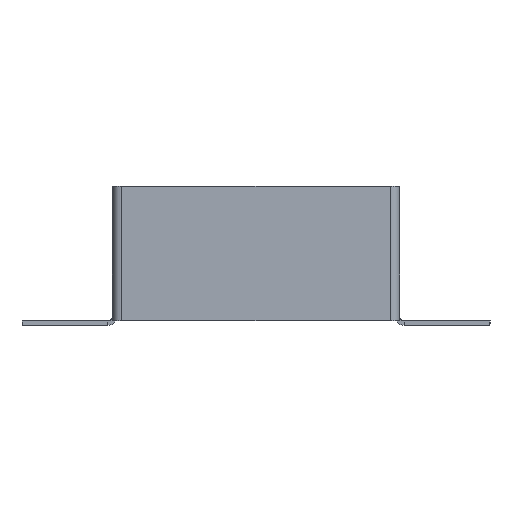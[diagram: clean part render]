
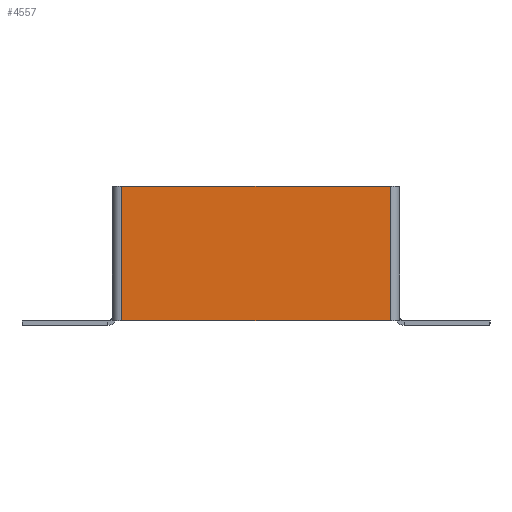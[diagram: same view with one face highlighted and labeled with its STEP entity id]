
A CAD part, front view. The second image highlights one B-rep face of the part: STEP entity #4557.
In plain terms, the highlighted planar face has unit normal (0, -1, 0).
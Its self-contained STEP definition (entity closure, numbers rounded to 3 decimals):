
#40 = DIRECTION ( 'NONE',  ( 0., 1., 0. ) ) ;
#208 = EDGE_CURVE ( 'NONE', #8113, #5210, #3606, .T. ) ;
#273 = LINE ( 'NONE', #1265, #2606 ) ;
#458 = ORIENTED_EDGE ( 'NONE', *, *, #570, .F. ) ;
#544 = CARTESIAN_POINT ( 'NONE',  ( 58., -2., -58. ) ) ;
#570 = EDGE_CURVE ( 'NONE', #687, #5825, #2830, .T. ) ;
#687 = VERTEX_POINT ( 'NONE', #544 ) ;
#712 = DIRECTION ( 'NONE',  ( 0., 0., -1. ) ) ;
#1217 = EDGE_CURVE ( 'NONE', #8113, #5825, #2048, .T. ) ;
#1265 = CARTESIAN_POINT ( 'NONE',  ( 58., -2., -58. ) ) ;
#1307 = FACE_OUTER_BOUND ( 'NONE', #4263, .T. ) ;
#1476 = CARTESIAN_POINT ( 'NONE',  ( -58., -2., -58. ) ) ;
#1573 = CARTESIAN_POINT ( 'NONE',  ( -58., -2., 0. ) ) ;
#1717 = VECTOR ( 'NONE', #1795, 1000. ) ;
#1795 = DIRECTION ( 'NONE',  ( 1., 0., 0. ) ) ;
#2042 = DIRECTION ( 'NONE',  ( -1., 0., 0. ) ) ;
#2048 = LINE ( 'NONE', #4297, #4482 ) ;
#2074 = CARTESIAN_POINT ( 'NONE',  ( -60., -2., -58. ) ) ;
#2385 = CARTESIAN_POINT ( 'NONE',  ( -60., -2., 0. ) ) ;
#2606 = VECTOR ( 'NONE', #5426, 1000. ) ;
#2830 = LINE ( 'NONE', #2074, #8723 ) ;
#2852 = CARTESIAN_POINT ( 'NONE',  ( 58., -2., 0. ) ) ;
#2910 = CARTESIAN_POINT ( 'NONE',  ( 0., -2., 0. ) ) ;
#3606 = LINE ( 'NONE', #2385, #1717 ) ;
#3777 = ORIENTED_EDGE ( 'NONE', *, *, #208, .F. ) ;
#4263 = EDGE_LOOP ( 'NONE', ( #4896, #458, #5541, #3777 ) ) ;
#4297 = CARTESIAN_POINT ( 'NONE',  ( -58., -2., 0. ) ) ;
#4326 = PLANE ( 'NONE',  #5682 ) ;
#4482 = VECTOR ( 'NONE', #712, 1000. ) ;
#4557 = ADVANCED_FACE ( 'NONE', ( #1307 ), #4326, .F. ) ;
#4896 = ORIENTED_EDGE ( 'NONE', *, *, #1217, .T. ) ;
#5022 = DIRECTION ( 'NONE',  ( 0., 0., 1. ) ) ;
#5210 = VERTEX_POINT ( 'NONE', #2852 ) ;
#5426 = DIRECTION ( 'NONE',  ( 0., 0., 1. ) ) ;
#5541 = ORIENTED_EDGE ( 'NONE', *, *, #7400, .T. ) ;
#5682 = AXIS2_PLACEMENT_3D ( 'NONE', #2910, #40, #5022 ) ;
#5825 = VERTEX_POINT ( 'NONE', #1476 ) ;
#7400 = EDGE_CURVE ( 'NONE', #687, #5210, #273, .T. ) ;
#8113 = VERTEX_POINT ( 'NONE', #1573 ) ;
#8723 = VECTOR ( 'NONE', #2042, 1000. ) ;
